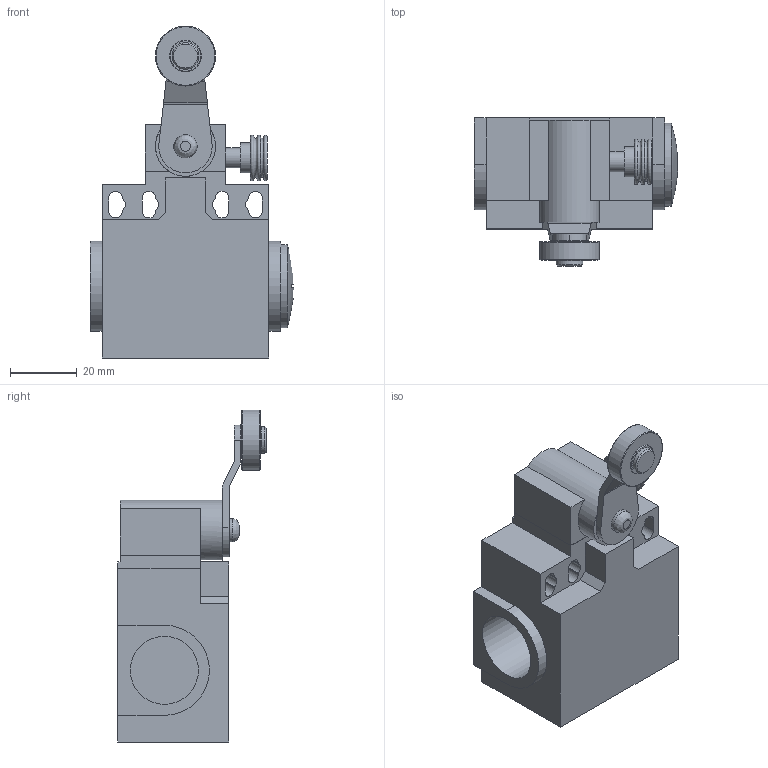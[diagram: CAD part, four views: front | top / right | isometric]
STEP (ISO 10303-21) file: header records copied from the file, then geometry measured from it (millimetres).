
FILE_DESCRIPTION((''),'2;1');
FILE_NAME('D:\Documenti_D\Corrispondenza\Comepi\Catalogo da fare\Modelli Nov 2011\DP\STEP\DP1-R41.iam.step','2011-11-17T12:04:41',(''),(''),'Autodesk Inventor 2010','Autodesk Inventor 2010','');
FILE_SCHEMA(('AUTOMOTIVE_DESIGN { 1 0 10303 214 1 1 1 1 }'));
Length unit declared in the file: millimetre
Products named in the file (7): DP1-R41; DP1; tappo; R41; Rr; T41_2
Assembly tree (6 placements, depth 3):
  DP1-R41
    DP1
      DP1
      tappo
    R41
      Rr
      T41_2
Bounding box: 60.92 x 44.55 x 99.57 mm (x, y, z)
Volume: 84025.9 mm3; surface area: 24891.7 mm2
Topology: 4 solids, 4 shells, 119 faces, 288 edges, 188 vertices
Faces by surface type: plane 73, cylinder 31, torus 9, cone 4, sphere 1, bspline 1
Full cylindrical faces by diameter (mm): 6 x3, 7 x1, 8 x1, 9 x1, 18 x2, 20.4 x1, 25 x1
Entity records: 3659 total; most frequent: CARTESIAN_POINT 624, DIRECTION 610, ORIENTED_EDGE 524, EDGE_CURVE 262, AXIS2_PLACEMENT_3D 217, VERTEX_POINT 186, VECTOR 176, LINE 176
